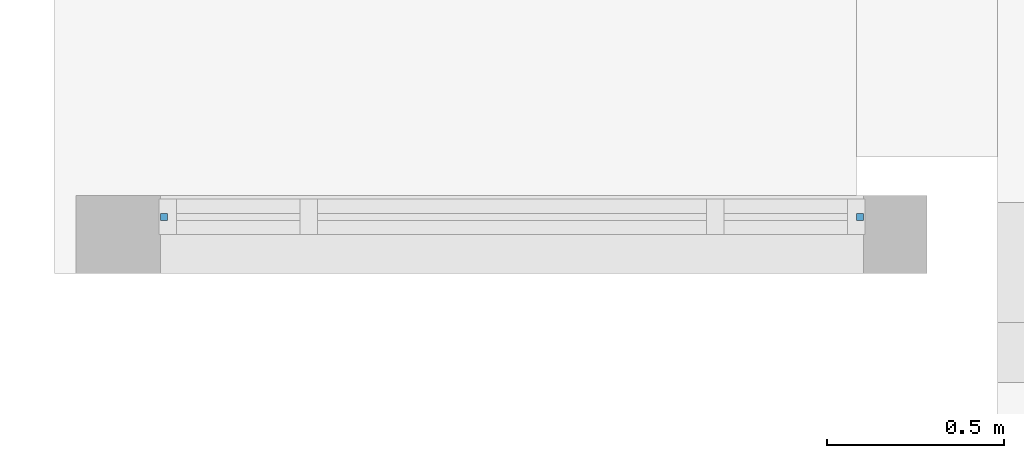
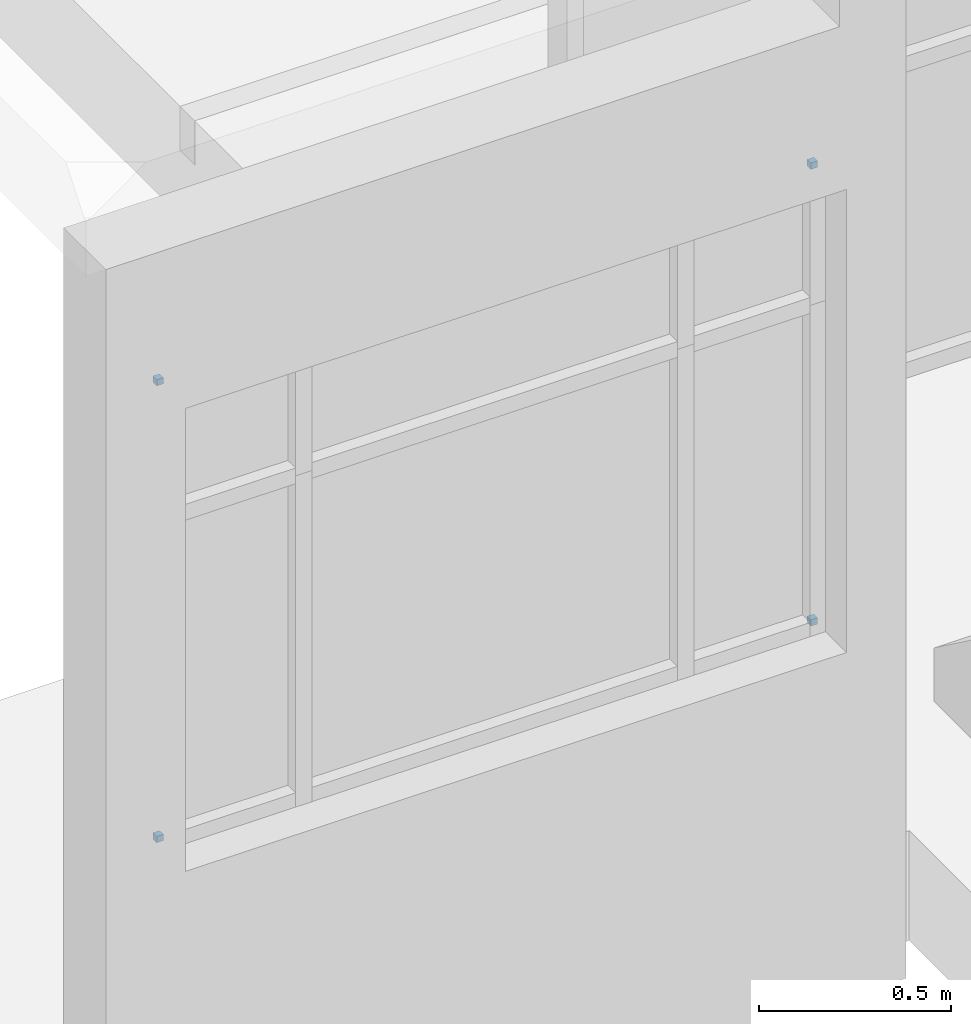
# One storey, part 110 of 153: 4 plates, 1 element without a shape of its own.
"""IFC4 building model written with IfcOpenShell, lengths in metres."""

from ifc_helpers import new_model, entity, si_unit, converted_unit, derived_unit, direction, frame, origin, place, context, subcontext, project, spatial, indexed_curve, outline, extrude, source, transform, mapped, material, type_object, type_shapes, element, aggregate, save


model = new_model("IFC4")

# Units and contexts
model_context = context("Model", 3, precision=1e-05, world=origin(), true_north=direction((6.123031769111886e-17, 1.0)))
body_context = subcontext(model_context, "Body", "Model", "MODEL_VIEW")
ifc_project = project(units=[si_unit("LENGTHUNIT", "METRE"), si_unit("AREAUNIT", "SQUARE_METRE"), si_unit("VOLUMEUNIT", "CUBIC_METRE"), converted_unit("PLANEANGLEUNIT", "DEGREE", entity("IfcRatioMeasure", 0.017453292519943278), si_unit("PLANEANGLEUNIT", "RADIAN"), dimensions=[0, 0, 0, 0, 0, 0, 0]), si_unit("MASSUNIT", "GRAM", prefix="KILO"), derived_unit("MASSDENSITYUNIT", [(si_unit("MASSUNIT", "GRAM", prefix="KILO"), 1), (si_unit("LENGTHUNIT", "METRE"), -3)]), derived_unit("MOMENTOFINERTIAUNIT", [(si_unit("LENGTHUNIT", "METRE"), 4)]), si_unit("TIMEUNIT", "SECOND"), si_unit("FREQUENCYUNIT", "HERTZ"), si_unit("THERMODYNAMICTEMPERATUREUNIT", "DEGREE_CELSIUS"), derived_unit("THERMALTRANSMITTANCEUNIT", [(si_unit("MASSUNIT", "GRAM", prefix="KILO"), 1), (si_unit("THERMODYNAMICTEMPERATUREUNIT", "KELVIN"), -1), (si_unit("TIMEUNIT", "SECOND"), -3)]), derived_unit("VOLUMETRICFLOWRATEUNIT", [(si_unit("LENGTHUNIT", "METRE"), 3), (si_unit("TIMEUNIT", "SECOND"), -1)]), derived_unit("MASSFLOWRATEUNIT", [(si_unit("MASSUNIT", "GRAM", prefix="KILO"), 1), (si_unit("TIMEUNIT", "SECOND"), -1)]), derived_unit("ROTATIONALFREQUENCYUNIT", [(si_unit("TIMEUNIT", "SECOND"), -1)]), si_unit("ELECTRICCURRENTUNIT", "AMPERE"), si_unit("ELECTRICVOLTAGEUNIT", "VOLT"), si_unit("POWERUNIT", "WATT"), si_unit("FORCEUNIT", "NEWTON", prefix="KILO"), si_unit("ILLUMINANCEUNIT", "LUX"), si_unit("LUMINOUSFLUXUNIT", "LUMEN"), si_unit("LUMINOUSINTENSITYUNIT", "CANDELA"), derived_unit("USERDEFINED", [(si_unit("MASSUNIT", "GRAM", prefix="KILO"), -1), (si_unit("LENGTHUNIT", "METRE"), -2), (si_unit("TIMEUNIT", "SECOND"), 3), (si_unit("LUMINOUSFLUXUNIT", "LUMEN"), 1)]), derived_unit("SOUNDPOWERUNIT", [(si_unit("MASSUNIT", "GRAM", prefix="KILO"), 1), (si_unit("LENGTHUNIT", "METRE"), 2), (si_unit("TIMEUNIT", "SECOND"), -3)]), derived_unit("SOUNDPRESSUREUNIT", [(si_unit("MASSUNIT", "GRAM", prefix="KILO"), 1), (si_unit("LENGTHUNIT", "METRE"), -1), (si_unit("TIMEUNIT", "SECOND"), -2)]), derived_unit("LINEARVELOCITYUNIT", [(si_unit("LENGTHUNIT", "METRE"), 1), (si_unit("TIMEUNIT", "SECOND"), -1)]), si_unit("PRESSUREUNIT", "PASCAL"), derived_unit("USERDEFINED", [(si_unit("LENGTHUNIT", "METRE"), -2), (si_unit("MASSUNIT", "GRAM", prefix="KILO"), 1), (si_unit("TIMEUNIT", "SECOND"), -2)]), derived_unit("LINEARFORCEUNIT", [(si_unit("MASSUNIT", "GRAM", prefix="KILO"), 1), (si_unit("LENGTHUNIT", "METRE"), 1), (si_unit("TIMEUNIT", "SECOND"), -2), (si_unit("LENGTHUNIT", "METRE"), -1)]), derived_unit("PLANARFORCEUNIT", [(si_unit("MASSUNIT", "GRAM", prefix="KILO"), 1), (si_unit("LENGTHUNIT", "METRE"), 1), (si_unit("TIMEUNIT", "SECOND"), -2), (si_unit("LENGTHUNIT", "METRE"), -2)])], contexts=[model_context])

# Site, building, storey
site_placement = place(None, origin())
site = spatial("IfcSite", under=ifc_project, at=site_placement, Name="Superficie", CompositionType="ELEMENT")
building_placement = place(site_placement, origin())
building = spatial("IfcBuilding", under=site, at=building_placement, CompositionType="ELEMENT")
storey_placement = place(building_placement, frame((0.0, 0.0, 3.5999999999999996)))
storey = spatial("IfcBuildingStorey", under=building, at=storey_placement, Name="Nivel 1", CompositionType="ELEMENT", Elevation=3.5999999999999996)

# Curtain wall, plates
curtain_wall_type = type_object("IfcCurtainWallType", Name="Muro cortina:Muro cortina - simple", PredefinedType="NOTDEFINED")
curtain_wall_placement = place(storey_placement, frame((0.0, 0.0, -3.5999999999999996)))
curtain_wall = element("IfcCurtainWall", 1, at=curtain_wall_placement, inside=storey, type_object=curtain_wall_type, Name="Muro cortina:Muro cortina - simple", ObjectType="Muro cortina:Muro cortina - simple", PredefinedType="NOTDEFINED")
ifc_material = material(Name="Cristal", Category="Vidrio")
plate_type = type_object("IfcPlateType", Name="Panel de sistema:Acristalado", PredefinedType="CURTAIN_PANEL", material=ifc_material)
shared_shape = source(origin(), body_context, "Body", "SweptSolid", [
    extrude(outline(indexed_curve([(-0.01, -0.009999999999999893), (0.01, -0.009999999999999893), (0.01, 0.009999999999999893), (-0.01, 0.009999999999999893), (-0.01, -0.009999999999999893)], self_intersect=False)), frame((0.0, 0.0, 0.0), z_axis=(0.0, 0.0, 1.0), x_axis=(0.0, 1.0, 0.0)), (0.0, 0.0, 1.0), 0.02000000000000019),
])
type_shapes(plate_type, [shared_shape])
plate_1_placement = place(curtain_wall_placement, frame((-25.003200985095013, -2.8641707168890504, 4.5)))
plate_1 = element("IfcPlate", 2, at=plate_1_placement, type_object=plate_type, material=ifc_material, Name="Panel de sistema:Acristalado", ObjectType="Panel de sistema:Acristalado", PredefinedType="CURTAIN_PANEL", context=body_context, shape_type="MappedRepresentation", body=[
    mapped(shared_shape, transform((0.0, 0.0, 0.0), scale=1.0)),
])
plate_2_placement = place(curtain_wall_placement, frame((-23.03320098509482, -2.864170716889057, 4.5)))
plate_2 = element("IfcPlate", 3, at=plate_2_placement, type_object=plate_type, material=ifc_material, Name="Panel de sistema:Acristalado", ObjectType="Panel de sistema:Acristalado", PredefinedType="CURTAIN_PANEL", context=body_context, shape_type="MappedRepresentation", body=[
    mapped(shared_shape, transform((0.0, 0.0, 0.0), scale=1.0)),
])
plate_3_placement = place(curtain_wall_placement, frame((-25.003200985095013, -2.8641707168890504, 5.954480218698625)))
plate_3 = element("IfcPlate", 4, at=plate_3_placement, type_object=plate_type, material=ifc_material, Name="Panel de sistema:Acristalado", ObjectType="Panel de sistema:Acristalado", PredefinedType="CURTAIN_PANEL", context=body_context, shape_type="MappedRepresentation", body=[
    mapped(shared_shape, transform((0.0, 0.0, 0.0), scale=1.0)),
])
plate_4_placement = place(curtain_wall_placement, frame((-23.03320098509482, -2.864170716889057, 5.954480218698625)))
plate_4 = element("IfcPlate", 5, at=plate_4_placement, type_object=plate_type, material=ifc_material, Name="Panel de sistema:Acristalado", ObjectType="Panel de sistema:Acristalado", PredefinedType="CURTAIN_PANEL", context=body_context, shape_type="MappedRepresentation", body=[
    mapped(shared_shape, transform((0.0, 0.0, 0.0), scale=1.0)),
])
aggregate(curtain_wall, [plate_1, plate_2, plate_3, plate_4])

save(model, "model.ifc")
